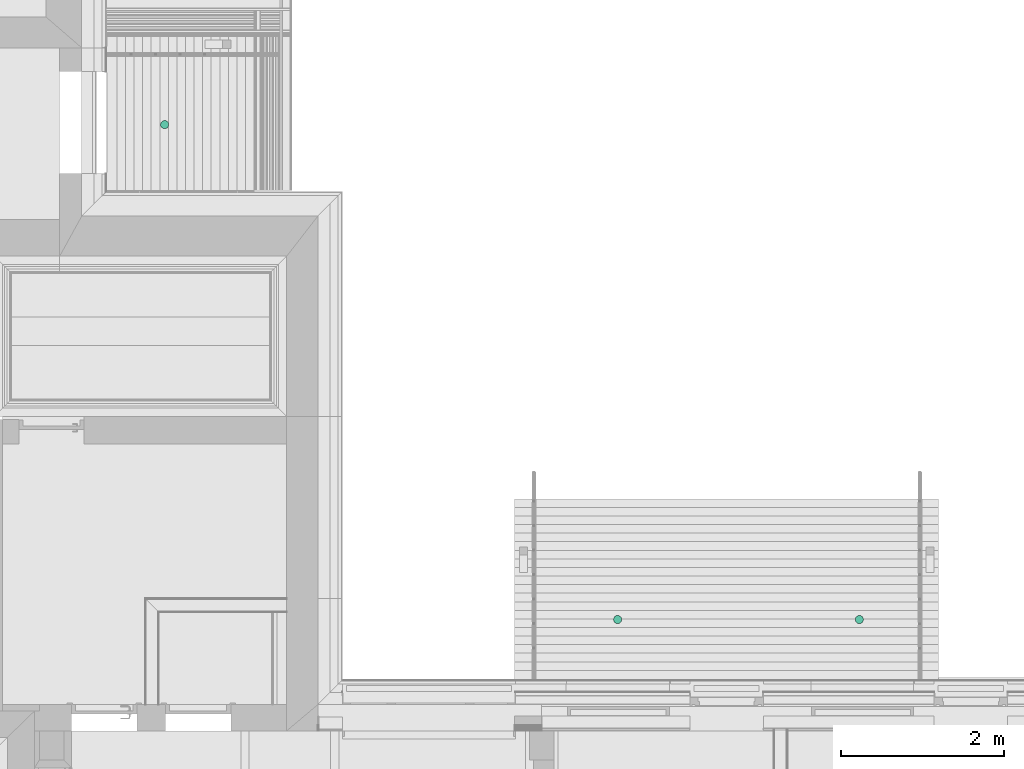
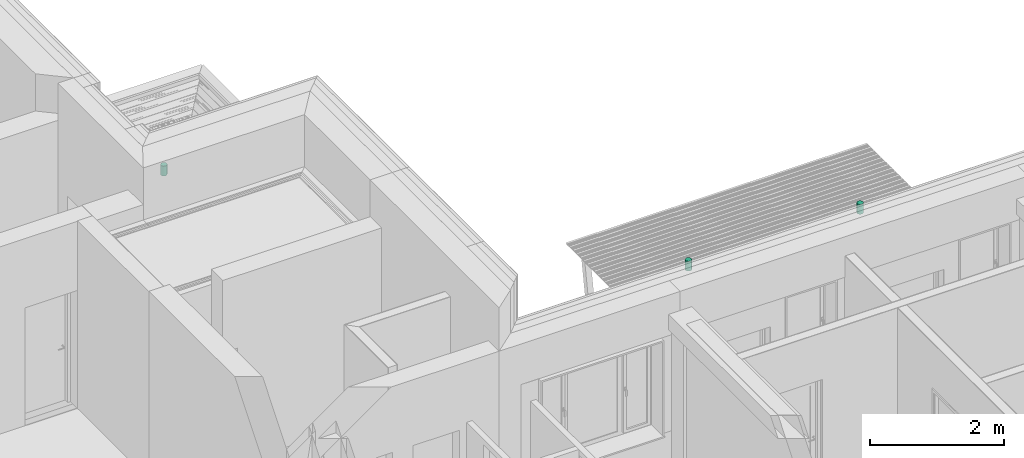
# One storey, part 181 of 418: 3 flow terminals.
"""IFC2X3 building model written with IfcOpenShell, lengths in millimetres."""

from ifc_helpers import new_model, entity, si_unit, converted_unit, derived_unit, money_unit, point, direction, frame, frame_2d, origin_with_axes, place, context, subcontext, project, spatial, circle_curve, parameter, trimmed, segment, composite_curve, outline, extrude, material, type_object, element, save


model = new_model("IFC2X3")

# Units and contexts
model_context = context("Model", 3, precision=0.01, world=origin_with_axes(), true_north=direction((0.0, 1.0)))
body_context = subcontext(model_context, "Body", "Model", "MODEL_VIEW")
ifc_project = project(units=[si_unit("LENGTHUNIT", "METRE", prefix="MILLI"), si_unit("AREAUNIT", "SQUARE_METRE"), si_unit("VOLUMEUNIT", "CUBIC_METRE"), converted_unit("PLANEANGLEUNIT", "DEGREE", entity("IfcPlaneAngleMeasure", 0.0174532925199), si_unit("PLANEANGLEUNIT", "RADIAN"), dimensions=[0, 0, 0, 0, 0, 0, 0]), si_unit("SOLIDANGLEUNIT", "STERADIAN"), money_unit("EUR"), converted_unit("TIMEUNIT", "Year", entity("IfcTimeMeasure", 31556926.0), si_unit("TIMEUNIT", "SECOND"), dimensions=[0, 0, 1, 0, 0, 0, 0]), si_unit("MASSUNIT", "GRAM", prefix="KILO"), si_unit("THERMODYNAMICTEMPERATUREUNIT", "DEGREE_CELSIUS"), si_unit("LUMINOUSINTENSITYUNIT", "LUMEN"), si_unit("ENERGYUNIT", "JOULE", prefix="MEGA"), derived_unit("THERMALCONDUCTANCEUNIT", [(si_unit("POWERUNIT", "WATT"), 1), (si_unit("LENGTHUNIT", "METRE"), -1), (si_unit("THERMODYNAMICTEMPERATUREUNIT", "KELVIN"), -1)]), derived_unit("SPECIFICHEATCAPACITYUNIT", [(si_unit("ENERGYUNIT", "JOULE"), 1), (si_unit("MASSUNIT", "GRAM", prefix="KILO"), -1), (si_unit("THERMODYNAMICTEMPERATUREUNIT", "KELVIN"), -1)]), derived_unit("MASSDENSITYUNIT", [(si_unit("MASSUNIT", "GRAM", prefix="KILO"), 1), (si_unit("VOLUMEUNIT", "CUBIC_METRE"), -1)])], contexts=[model_context])

# Site, building, storey
site_placement = place(None, origin_with_axes())
site = spatial("IfcSite", under=ifc_project, at=site_placement, Name="Paldiski mnt 245/1, Tallinn, Harjumaa", CompositionType="COMPLEX")
building_placement = place(site_placement, origin_with_axes())
building = spatial("IfcBuilding", under=site, at=building_placement, Name="RKAS Hoone üldnimetus (kasutust iseloomustav) -> IFC Project Manager -> SOLIBRI", CompositionType="ELEMENT")
storey_placement = place(building_placement, origin_with_axes())
storey = spatial("IfcBuildingStorey", under=building, at=storey_placement, Name="Esimene korrus", CompositionType="ELEMENT", Elevation=0.0)

# Flow terminals
ifc_material = material(Name="RAL7016")
light_fixture_type = type_object("IfcLightFixtureType", Name="RAL7016 180", PredefinedType="NOTDEFINED")
for number, where, z_axis, x_axis in (
    (1, (-40459.9999974, 1252.00002754, 2730.72852546), (0.0, 0.0, 1.0), (1.0, 0.0, 0.0)),
    (2, (-37501.3787978, 1252.00002754, 2730.72852546), (0.0, 0.0, 1.0), (1.0, 0.0, 0.0)),
    (3, (-46005.0000033, 7309.82870846, 2730.72852546), (0.0, 0.0, 1.0), (1.0, 0.0, 0.0)),
):
    element("IfcFlowTerminal", number, at=place(storey_placement, frame(where, z_axis=z_axis, x_axis=x_axis)), inside=storey, type_object=light_fixture_type, material=ifc_material, Name="Välisvalgusti", ObjectType="Light Fixture", context=body_context, shape_type="SweptSolid", body=[
        extrude(outline(composite_curve([segment(trimmed(circle_curve(frame_2d((-50.0, 0.0), x_axis=(1.0, 0.0)), 50.0), [point((0.0, 0.0)), parameter(0.0)], [point((-100.0, 0.0)), parameter(180.0)], True, "CARTESIAN"), True, "CONTINUOUS"), segment(trimmed(circle_curve(frame_2d((-50.0, 0.0), x_axis=(-1.0, 0.0)), 50.0), [point((-100.0, 0.0)), parameter(0.0)], [point((0.0, 0.0)), parameter(180.0)], True, "CARTESIAN"), True, "CONTINUOUS")], self_intersect=False)), frame((0.0, 0.0, -180.0), z_axis=(0.0, 0.0, 1.0), x_axis=(1.0, 0.0, 0.0)), (0.0, 0.0, 1.0), 180.0),
    ])

save(model, "model.ifc")
